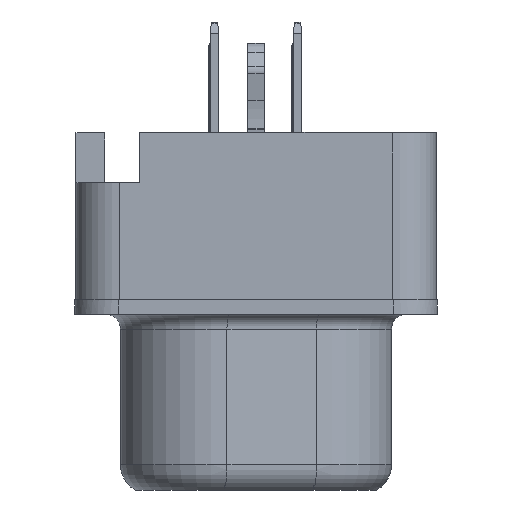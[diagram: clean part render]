
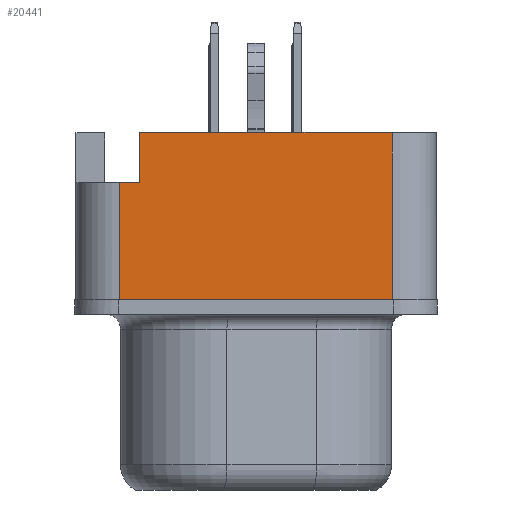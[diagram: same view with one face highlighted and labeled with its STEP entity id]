
A CAD part, left-side view. The second image highlights one B-rep face of the part: STEP entity #20441.
In plain terms, the highlighted planar face has unit normal (-1, 0, 0).
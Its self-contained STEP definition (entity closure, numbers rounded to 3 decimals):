
#20441=ADVANCED_FACE('',(#23876),#22197,.T.);
#22197=PLANE('',#62999);
#23876=FACE_OUTER_BOUND('',#26454,.T.);
#26454=EDGE_LOOP('',(#36356,#36357,#36358,#36359,#36360,#36361));
#36356=ORIENTED_EDGE('',*,*,#49648,.T.);
#36357=ORIENTED_EDGE('',*,*,#49649,.F.);
#36358=ORIENTED_EDGE('',*,*,#49650,.F.);
#36359=ORIENTED_EDGE('',*,*,#49560,.F.);
#36360=ORIENTED_EDGE('',*,*,#49651,.T.);
#36361=ORIENTED_EDGE('',*,*,#49652,.T.);
#44276=VERTEX_POINT('',#82554);
#44277=VERTEX_POINT('',#82556);
#44348=VERTEX_POINT('',#82805);
#44349=VERTEX_POINT('',#82806);
#44350=VERTEX_POINT('',#82808);
#44351=VERTEX_POINT('',#82811);
#49560=EDGE_CURVE('',#44276,#44277,#54331,.T.);
#49648=EDGE_CURVE('',#44348,#44349,#54393,.T.);
#49649=EDGE_CURVE('',#44350,#44349,#54394,.T.);
#49650=EDGE_CURVE('',#44277,#44350,#54395,.T.);
#49651=EDGE_CURVE('',#44276,#44351,#54396,.T.);
#49652=EDGE_CURVE('',#44351,#44348,#54397,.T.);
#54331=LINE('',#82555,#57007);
#54393=LINE('',#82804,#57069);
#54394=LINE('',#82807,#57070);
#54395=LINE('',#82809,#57071);
#54396=LINE('',#82810,#57072);
#54397=LINE('',#82812,#57073);
#57007=VECTOR('',#71693,1.);
#57069=VECTOR('',#71817,1.);
#57070=VECTOR('',#71818,1.);
#57071=VECTOR('',#71819,1.);
#57072=VECTOR('',#71820,1.);
#57073=VECTOR('',#71821,1.);
#62999=AXIS2_PLACEMENT_3D('',#82813,#71822,#71823);
#71693=DIRECTION('',(0.,-1.,0.));
#71817=DIRECTION('',(0.,0.,1.));
#71818=DIRECTION('',(0.,-1.,0.));
#71819=DIRECTION('',(0.,0.,1.));
#71820=DIRECTION('',(0.,0.,-1.));
#71821=DIRECTION('',(0.,-1.,0.));
#71822=DIRECTION('',(-1.,0.,0.));
#71823=DIRECTION('',(0.,-1.,0.));
#82554=CARTESIAN_POINT('',(-26.68,4.65,4.));
#82555=CARTESIAN_POINT('',(-26.68,6.15,4.));
#82556=CARTESIAN_POINT('',(-26.68,3.97,4.));
#82804=CARTESIAN_POINT('',(-26.68,-4.65,0.));
#82805=CARTESIAN_POINT('',(-26.68,-4.65,0.));
#82806=CARTESIAN_POINT('',(-26.68,-4.65,5.7));
#82807=CARTESIAN_POINT('',(-26.68,6.15,5.7));
#82808=CARTESIAN_POINT('',(-26.68,3.97,5.7));
#82809=CARTESIAN_POINT('',(-26.68,3.97,0.));
#82810=CARTESIAN_POINT('',(-26.68,4.65,0.));
#82811=CARTESIAN_POINT('',(-26.68,4.65,0.));
#82812=CARTESIAN_POINT('',(-26.68,6.15,0.));
#82813=CARTESIAN_POINT('',(-26.68,6.15,0.));
